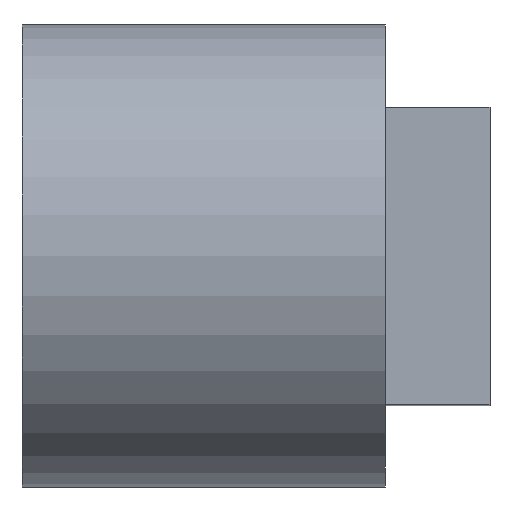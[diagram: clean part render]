
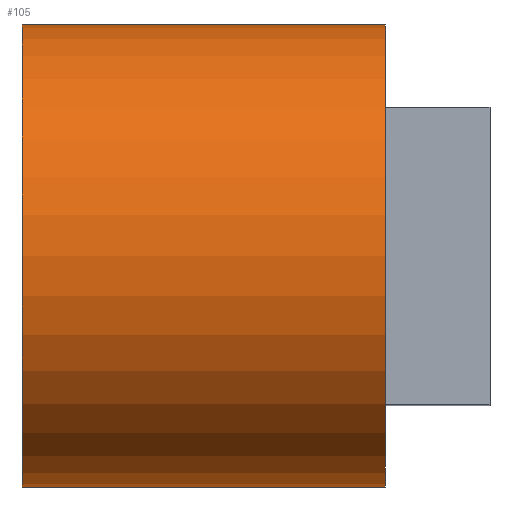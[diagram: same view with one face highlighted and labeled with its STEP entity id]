
A CAD part, top view. The second image highlights one B-rep face of the part: STEP entity #105.
In plain terms, the highlighted cylindrical face has radius 7 mm (diameter 14 mm), a full revolution.
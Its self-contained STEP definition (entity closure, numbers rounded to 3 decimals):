
#24 = VERTEX_POINT('',#25);
#25 = CARTESIAN_POINT('',(65.375,-4.5,95.688));
#40 = VERTEX_POINT('',#41);
#41 = CARTESIAN_POINT('',(65.375,4.5,95.688));
#47 = EDGE_CURVE('',#24,#40,#48,.T.);
#48 = CIRCLE('',#49,7.);
#49 = AXIS2_PLACEMENT_3D('',#50,#51,#52);
#50 = CARTESIAN_POINT('',(65.375,0.,101.05));
#51 = DIRECTION('',(1.,0.,-0.));
#52 = DIRECTION('',(0.,0.,1.));
#79 = EDGE_CURVE('',#24,#80,#82,.T.);
#80 = VERTEX_POINT('',#81);
#81 = CARTESIAN_POINT('',(71.2,-4.5,95.688));
#82 = LINE('',#83,#84);
#83 = CARTESIAN_POINT('',(60.2,-4.5,95.688));
#84 = VECTOR('',#85,1.);
#85 = DIRECTION('',(1.,0.,0.));
#105 = ADVANCED_FACE('',(#106),#150,.T.);
#106 = FACE_BOUND('',#107,.T.);
#107 = EDGE_LOOP('',(#108,#118,#127,#133,#134,#135,#142,#143));
#108 = ORIENTED_EDGE('',*,*,#109,.T.);
#109 = EDGE_CURVE('',#110,#112,#114,.T.);
#110 = VERTEX_POINT('',#111);
#111 = CARTESIAN_POINT('',(60.2,0.,108.05));
#112 = VERTEX_POINT('',#113);
#113 = CARTESIAN_POINT('',(71.2,0.,108.05));
#114 = LINE('',#115,#116);
#115 = CARTESIAN_POINT('',(60.2,0.,108.05));
#116 = VECTOR('',#117,1.);
#117 = DIRECTION('',(1.,0.,0.));
#118 = ORIENTED_EDGE('',*,*,#119,.F.);
#119 = EDGE_CURVE('',#120,#112,#122,.T.);
#120 = VERTEX_POINT('',#121);
#121 = CARTESIAN_POINT('',(71.2,4.5,95.688));
#122 = CIRCLE('',#123,7.);
#123 = AXIS2_PLACEMENT_3D('',#124,#125,#126);
#124 = CARTESIAN_POINT('',(71.2,0.,101.05));
#125 = DIRECTION('',(1.,0.,-0.));
#126 = DIRECTION('',(0.,0.,1.));
#127 = ORIENTED_EDGE('',*,*,#128,.F.);
#128 = EDGE_CURVE('',#40,#120,#129,.T.);
#129 = LINE('',#130,#131);
#130 = CARTESIAN_POINT('',(60.2,4.5,95.688));
#131 = VECTOR('',#132,1.);
#132 = DIRECTION('',(1.,0.,0.));
#133 = ORIENTED_EDGE('',*,*,#47,.F.);
#134 = ORIENTED_EDGE('',*,*,#79,.T.);
#135 = ORIENTED_EDGE('',*,*,#136,.F.);
#136 = EDGE_CURVE('',#112,#80,#137,.T.);
#137 = CIRCLE('',#138,7.);
#138 = AXIS2_PLACEMENT_3D('',#139,#140,#141);
#139 = CARTESIAN_POINT('',(71.2,0.,101.05));
#140 = DIRECTION('',(1.,0.,-0.));
#141 = DIRECTION('',(0.,0.,1.));
#142 = ORIENTED_EDGE('',*,*,#109,.F.);
#143 = ORIENTED_EDGE('',*,*,#144,.T.);
#144 = EDGE_CURVE('',#110,#110,#145,.T.);
#145 = CIRCLE('',#146,7.);
#146 = AXIS2_PLACEMENT_3D('',#147,#148,#149);
#147 = CARTESIAN_POINT('',(60.2,0.,101.05));
#148 = DIRECTION('',(1.,0.,-0.));
#149 = DIRECTION('',(0.,0.,1.));
#150 = CYLINDRICAL_SURFACE('',#151,7.);
#151 = AXIS2_PLACEMENT_3D('',#152,#153,#154);
#152 = CARTESIAN_POINT('',(60.2,0.,101.05));
#153 = DIRECTION('',(1.,0.,0.));
#154 = DIRECTION('',(0.,0.,1.));
